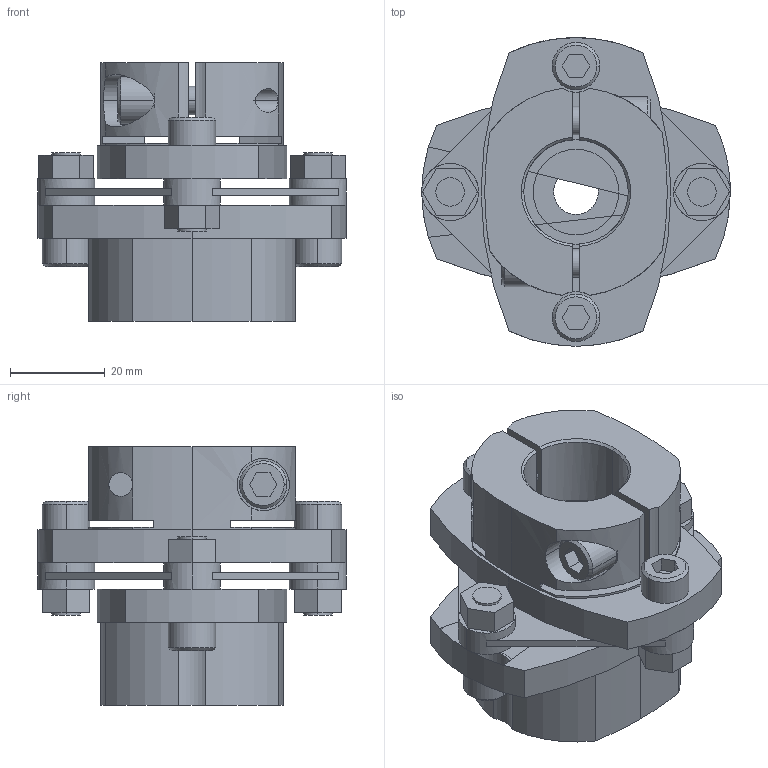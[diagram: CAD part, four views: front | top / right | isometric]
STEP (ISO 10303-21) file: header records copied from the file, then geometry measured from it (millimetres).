
FILE_DESCRIPTION((''),'2;1');
FILE_NAME('LCS-65M-11L亊22B.stp','2011-08-20T15:52:50',(''),(''),'AutoCAD STEP 2000i','AutoCAD 2000i',', , ');
FILE_SCHEMA(('CONFIG_CONTROL_DESIGN'));
Length unit declared in the file: millimetre
Products named in the file (8): LCS-65M-11L×22B; 忣兜1; LC65-B022; LC65-B016; LC65M-L011; LC65-B014-1; LC65-B014; LCS65-ITA
Assembly tree (7 placements, depth 2):
  LCS-65M-11L×22B
    忣兜1
    LC65-B022
    LC65-B016
    LC65M-L011
    LC65-B014-1
    LC65-B014
    LCS65-ITA
Bounding box: 65 x 65 x 54.5 mm (x, y, z)
Volume: 73816.2 mm3; surface area: 26497.6 mm2
Topology: 1 solids, 1 shells, 228 faces, 596 edges, 390 vertices
Faces by surface type: plane 115, cylinder 92, cone 21
Entity records: 7529 total; most frequent: CARTESIAN_POINT 1510, DIRECTION 1288, ORIENTED_EDGE 1192, EDGE_CURVE 596, AXIS2_PLACEMENT_3D 474, VERTEX_POINT 390, VECTOR 340, LINE 340
